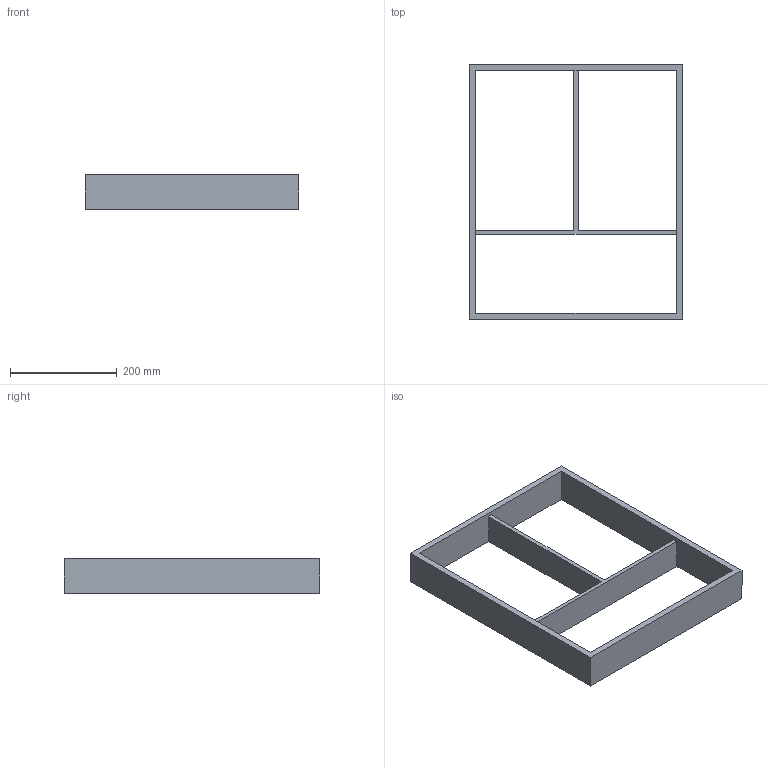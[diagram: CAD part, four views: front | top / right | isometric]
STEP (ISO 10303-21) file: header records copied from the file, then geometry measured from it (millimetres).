
FILE_DESCRIPTION (( 'STEP AP214' ), '1' );
FILE_NAME ('Vario Multi NL500_ZE400_16 mm_Alu.step', '2010-10-07T06:24:35', ( 'grass' ), ( '' ), 'SwSTEP 2.0', 'SolidWorks 2010', '' );
FILE_SCHEMA (( 'AUTOMOTIVE_DESIGN' ));
Length unit declared in the file: millimetre
Products named in the file (1): Vario Multi NL500_ZE400_16 mm_Alu
Bounding box: 400 x 479 x 65 mm (x, y, z)
Volume: 1641508.8 mm3; surface area: 349240 mm2
Topology: 1 solids, 1 shells, 16 faces, 48 edges, 32 vertices
Faces by surface type: plane 16
Entity records: 578 total; most frequent: CARTESIAN_POINT 97, ORIENTED_EDGE 96, DIRECTION 82, EDGE_CURVE 48, VECTOR 48, LINE 48, VERTEX_POINT 32, EDGE_LOOP 20
